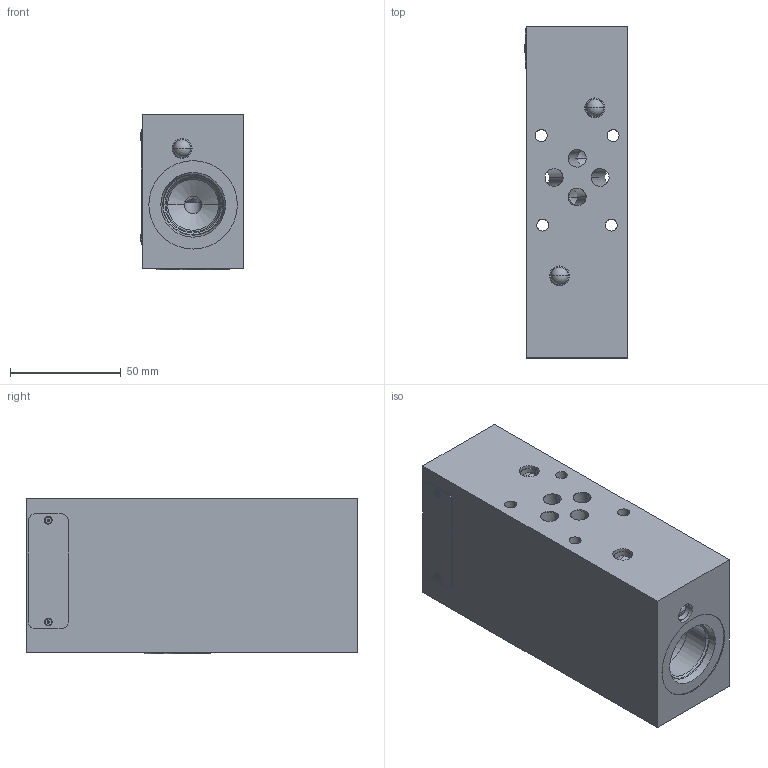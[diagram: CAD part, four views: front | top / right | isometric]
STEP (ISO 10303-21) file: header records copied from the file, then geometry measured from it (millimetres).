
FILE_DESCRIPTION((''),'2;1');
FILE_NAME('1000209708_ASM','2023-10-13T',('l.soukupova'),(''),'PRO/ENGINEER BY PARAMETRIC TECHNOLOGY CORPORATION, 2015440','PRO/ENGINEER BY PARAMETRIC TECHNOLOGY CORPORATION, 2015440','');
FILE_SCHEMA(('AUTOMOTIVE_DESIGN { 1 0 10303 214 1 1 1 1 }'));
Length unit declared in the file: millimetre
Products named in the file (9): 29798600; MB850_090E; RD_LABEL_18X52_228219; AF_1932_16485; ORAR00012_201524_AF4; ORAR00012_201524_AF5; ORAR00012_201524_AF6; ORAR00012_201524_AF7; 1000209708_ASM
Assembly tree (12 placements, depth 2):
  1000209708_ASM
    29798600
    MB850_090E  x4
    RD_LABEL_18X52_228219
    AF_1932_16485  x2
    ORAR00012_201524_AF4
    ORAR00012_201524_AF5
    ORAR00012_201524_AF6
    ORAR00012_201524_AF7
Bounding box: 47 x 150 x 70.38 mm (x, y, z)
Volume: 398119.5 mm3; surface area: 73584.9 mm2
Topology: 12 solids, 14 shells, 379 faces, 1090 edges, 823 vertices
Faces by surface type: cylinder 149, cone 144, plane 42, torus 36, sphere 8
Entity records: 15771 total; most frequent: CARTESIAN_POINT 3993, DIRECTION 1740, ORIENTED_EDGE 1234, PRESENTATION_STYLE_ASSIGNMENT 985, STYLED_ITEM 907, CURVE_STYLE 897, AXIS2_PLACEMENT_3D 661, EDGE_CURVE 621
